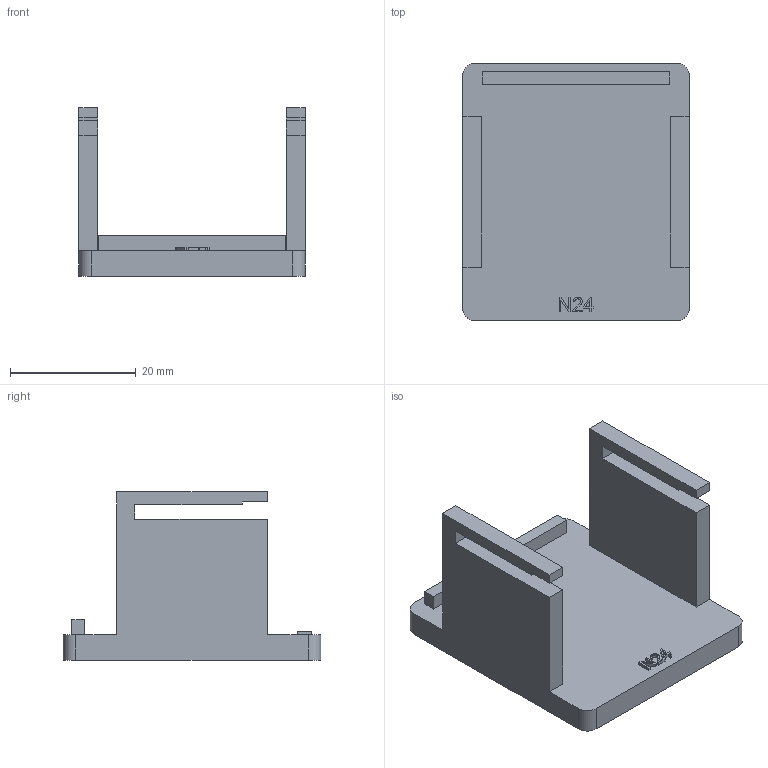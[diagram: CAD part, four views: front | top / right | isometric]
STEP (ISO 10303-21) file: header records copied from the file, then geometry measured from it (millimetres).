
FILE_DESCRIPTION(('Open CASCADE Model'),'2;1');
FILE_NAME('Open CASCADE Shape Model','1970-01-01T00:00:00',('Author'),( 'Open CASCADE'),'Open CASCADE STEP processor 7.8','Open CASCADE 7.8' ,'Unknown');
FILE_SCHEMA(('AUTOMOTIVE_DESIGN { 1 0 10303 214 1 1 1 1 }'));
Length unit declared in the file: millimetre
Products named in the file (2): Open CASCADE STEP translator 7.8 40; N24D neck storage shoe
Assembly tree (1 placements, depth 2):
  Open CASCADE STEP translator 7.8 40
    N24D neck storage shoe
Bounding box: 36 x 41 x 26.73 mm (x, y, z)
Volume: 8997.8 mm3; surface area: 6217.4 mm2
Topology: 1 solids, 1 shells, 85 faces, 234 edges, 156 vertices
Faces by surface type: plane 63, extrusion 18, cylinder 4
Entity records: 5959 total; most frequent: CARTESIAN_POINT 1591, DIRECTION 656, VECTOR 496, LINE 478, ORIENTED_EDGE 468, PCURVE 468, DEFINITIONAL_REPRESENTATION 468, EDGE_CURVE 234
